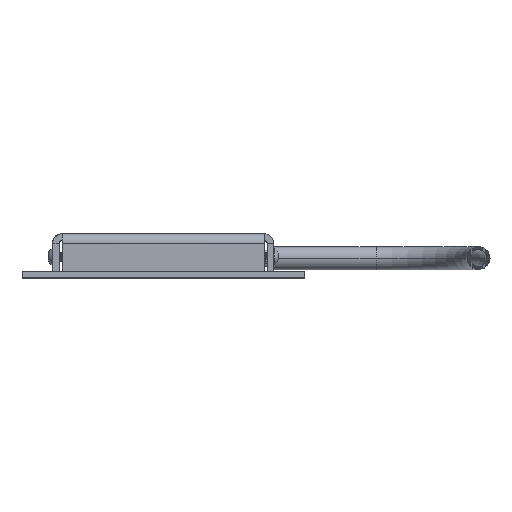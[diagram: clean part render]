
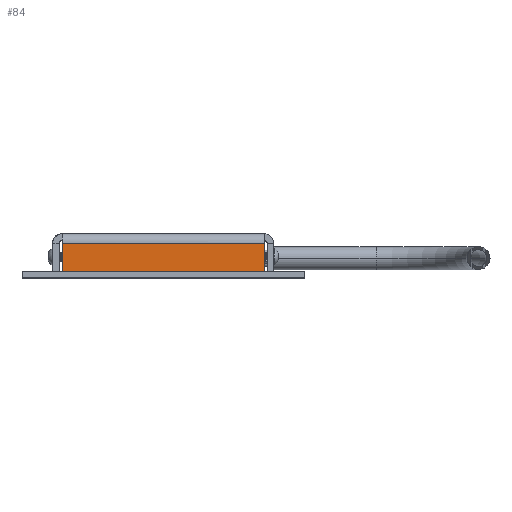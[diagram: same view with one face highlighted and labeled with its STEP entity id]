
A CAD part, top view. The second image highlights one B-rep face of the part: STEP entity #84.
In plain terms, the highlighted planar face has unit normal (0, 0, 1).
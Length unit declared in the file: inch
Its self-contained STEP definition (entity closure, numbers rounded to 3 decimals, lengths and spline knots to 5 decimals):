
#84 = ADVANCED_FACE ( 'NONE', ( #22947 ), #9971, .F. ) ;
#1923 = EDGE_CURVE ( 'NONE', #27641, #26201, #33977, .T. ) ;
#2049 = CARTESIAN_POINT ( 'NONE',  ( 0., 0., 1.077 ) ) ;
#4171 = LINE ( 'NONE', #34942, #12349 ) ;
#4317 = ORIENTED_EDGE ( 'NONE', *, *, #17112, .F. ) ;
#5522 = VECTOR ( 'NONE', #16581, 39.37008 ) ;
#7933 = DIRECTION ( 'NONE',  ( -1., 0., 0. ) ) ;
#9971 = PLANE ( 'NONE',  #27396 ) ;
#10231 = CARTESIAN_POINT ( 'NONE',  ( 0.98666, 0.305, 1.077 ) ) ;
#10379 = CARTESIAN_POINT ( 'NONE',  ( -0.98666, 0., 1.077 ) ) ;
#12349 = VECTOR ( 'NONE', #29467, 39.37008 ) ;
#12665 = CARTESIAN_POINT ( 'NONE',  ( -0.98666, 0.305, 1.077 ) ) ;
#13276 = EDGE_CURVE ( 'NONE', #30037, #23899, #4171, .T. ) ;
#16020 = CARTESIAN_POINT ( 'NONE',  ( -0.98666, 0.029, 1.077 ) ) ;
#16581 = DIRECTION ( 'NONE',  ( -1., 0., 0. ) ) ;
#17112 = EDGE_CURVE ( 'NONE', #30037, #27641, #29993, .T. ) ;
#20485 = ORIENTED_EDGE ( 'NONE', *, *, #25784, .T. ) ;
#20535 = LINE ( 'NONE', #22006, #5522 ) ;
#21812 = VECTOR ( 'NONE', #30264, 39.37008 ) ;
#22006 = CARTESIAN_POINT ( 'NONE',  ( -1.0145, 0.305, 1.077 ) ) ;
#22782 = ORIENTED_EDGE ( 'NONE', *, *, #1923, .F. ) ;
#22947 = FACE_OUTER_BOUND ( 'NONE', #24775, .T. ) ;
#23899 = VERTEX_POINT ( 'NONE', #10231 ) ;
#24588 = CARTESIAN_POINT ( 'NONE',  ( 0., 0.029, 1.077 ) ) ;
#24664 = DIRECTION ( 'NONE',  ( 0., 0., -1. ) ) ;
#24775 = EDGE_LOOP ( 'NONE', ( #4317, #25356, #20485, #22782 ) ) ;
#24877 = VECTOR ( 'NONE', #29807, 39.37008 ) ;
#25356 = ORIENTED_EDGE ( 'NONE', *, *, #13276, .T. ) ;
#25784 = EDGE_CURVE ( 'NONE', #23899, #26201, #20535, .T. ) ;
#26201 = VERTEX_POINT ( 'NONE', #12665 ) ;
#27396 = AXIS2_PLACEMENT_3D ( 'NONE', #2049, #24664, #7933 ) ;
#27641 = VERTEX_POINT ( 'NONE', #16020 ) ;
#28773 = CARTESIAN_POINT ( 'NONE',  ( 0.98666, 0.029, 1.077 ) ) ;
#29467 = DIRECTION ( 'NONE',  ( 0., 1., 0. ) ) ;
#29807 = DIRECTION ( 'NONE',  ( 0., 1., 0. ) ) ;
#29993 = LINE ( 'NONE', #24588, #21812 ) ;
#30037 = VERTEX_POINT ( 'NONE', #28773 ) ;
#30264 = DIRECTION ( 'NONE',  ( -1., 0., 0. ) ) ;
#33977 = LINE ( 'NONE', #10379, #24877 ) ;
#34942 = CARTESIAN_POINT ( 'NONE',  ( 0.98666, 0., 1.077 ) ) ;
